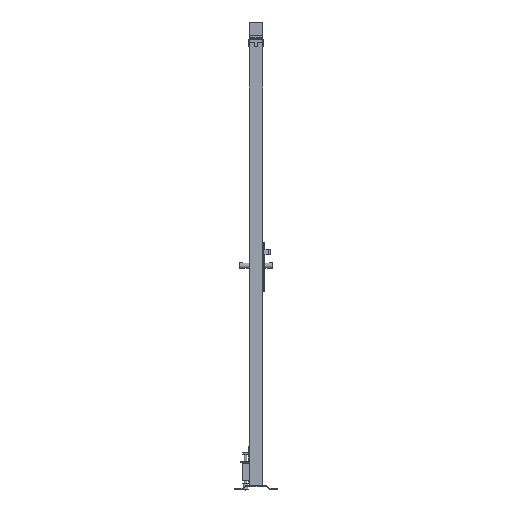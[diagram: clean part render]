
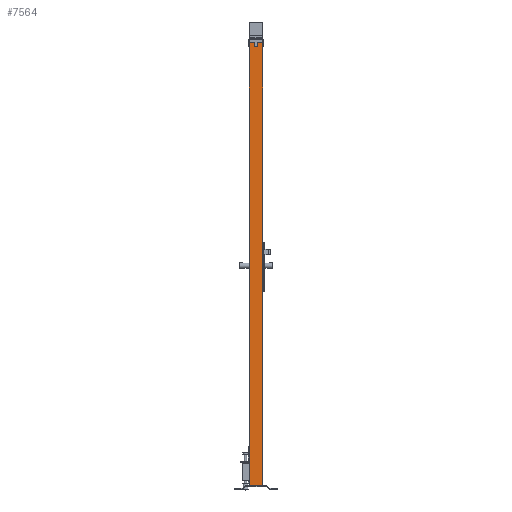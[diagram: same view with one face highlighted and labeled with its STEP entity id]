
A CAD part, left-side view. The second image highlights one B-rep face of the part: STEP entity #7564.
In plain terms, the highlighted planar face has unit normal (-1, 0, 0).
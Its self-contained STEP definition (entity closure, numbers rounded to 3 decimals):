
#973=FACE_OUTER_BOUND('',#1370,.T.);
#1370=EDGE_LOOP('',(#5676,#5677,#5678,#5679));
#1929=LINE('',#11127,#2830);
#1933=LINE('',#11136,#2834);
#1935=LINE('',#11139,#2836);
#1937=LINE('',#11142,#2838);
#2830=VECTOR('',#8931,1.);
#2834=VECTOR('',#8937,1.);
#2836=VECTOR('',#8941,1.);
#2838=VECTOR('',#8945,1.);
#3665=VERTEX_POINT('',#11124);
#3666=VERTEX_POINT('',#11126);
#3669=VERTEX_POINT('',#11133);
#3670=VERTEX_POINT('',#11135);
#4445=EDGE_CURVE('',#3665,#3666,#1929,.T.);
#4449=EDGE_CURVE('',#3669,#3670,#1933,.T.);
#4451=EDGE_CURVE('',#3666,#3669,#1935,.T.);
#4453=EDGE_CURVE('',#3665,#3670,#1937,.T.);
#5676=ORIENTED_EDGE('',*,*,#4453,.T.);
#5677=ORIENTED_EDGE('',*,*,#4449,.F.);
#5678=ORIENTED_EDGE('',*,*,#4451,.F.);
#5679=ORIENTED_EDGE('',*,*,#4445,.F.);
#7246=PLANE('',#8018);
#7564=ADVANCED_FACE('',(#973),#7246,.F.);
#8018=AXIS2_PLACEMENT_3D('',#11141,#8943,#8944);
#8931=DIRECTION('',(0.,-1.,0.));
#8937=DIRECTION('',(0.,1.,0.));
#8941=DIRECTION('',(0.,0.,-1.));
#8943=DIRECTION('center_axis',(1.,0.,0.));
#8944=DIRECTION('ref_axis',(0.,0.,-1.));
#8945=DIRECTION('',(0.,0.,-1.));
#11124=CARTESIAN_POINT('',(-30.,30.,2020.));
#11126=CARTESIAN_POINT('',(-30.,-30.,2020.));
#11127=CARTESIAN_POINT('',(-30.,0.,2020.));
#11133=CARTESIAN_POINT('',(-30.,-30.,20.));
#11135=CARTESIAN_POINT('',(-30.,30.,20.));
#11136=CARTESIAN_POINT('',(-30.,0.,20.));
#11139=CARTESIAN_POINT('',(-30.,-30.,1020.));
#11141=CARTESIAN_POINT('Origin',(-30.,0.,
1020.));
#11142=CARTESIAN_POINT('',(-30.,30.,1020.));
